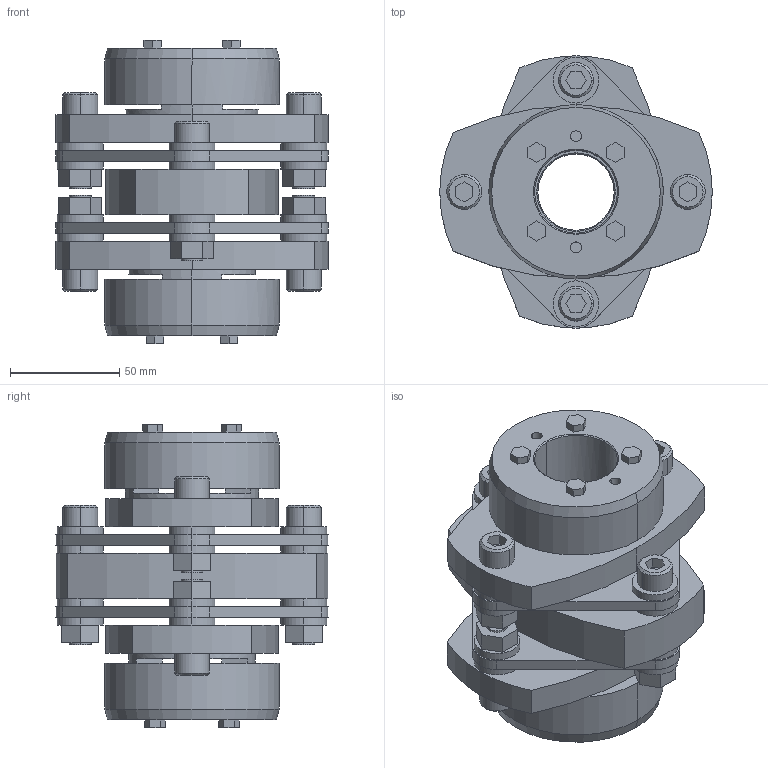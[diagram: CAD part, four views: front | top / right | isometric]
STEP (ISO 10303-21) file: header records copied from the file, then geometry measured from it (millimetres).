
FILE_DESCRIPTION((''),'2;1');
FILE_NAME('LCD-125T7-35×38.stp','2011-09-07T10:15:47',(''),(''),'AutoCAD STEP 2000i','AutoCAD 2000i',', , ');
FILE_SCHEMA(('CONFIG_CONTROL_DESIGN'));
Length unit declared in the file: millimetre
Products named in the file (8): LCD-125T7-35×38; 忣兜1; LC125T7-T038; LC125T7-T035-1; LC125T7-T035; LC125T7-T032-1; LC125T7-T032; LCD125-ITA
Assembly tree (7 placements, depth 2):
  LCD-125T7-35×38
    忣兜1
    LC125T7-T038
    LC125T7-T035-1
    LC125T7-T035
    LC125T7-T032-1
    LC125T7-T032
    LCD125-ITA
Bounding box: 125 x 124.91 x 139 mm (x, y, z)
Volume: 653245.2 mm3; surface area: 137250.9 mm2
Topology: 1 solids, 1 shells, 334 faces, 818 edges, 538 vertices
Faces by surface type: plane 190, cylinder 120, cone 24
Entity records: 10113 total; most frequent: DIRECTION 1784, CARTESIAN_POINT 1698, ORIENTED_EDGE 1636, EDGE_CURVE 818, AXIS2_PLACEMENT_3D 624, VERTEX_POINT 538, VECTOR 536, LINE 536
